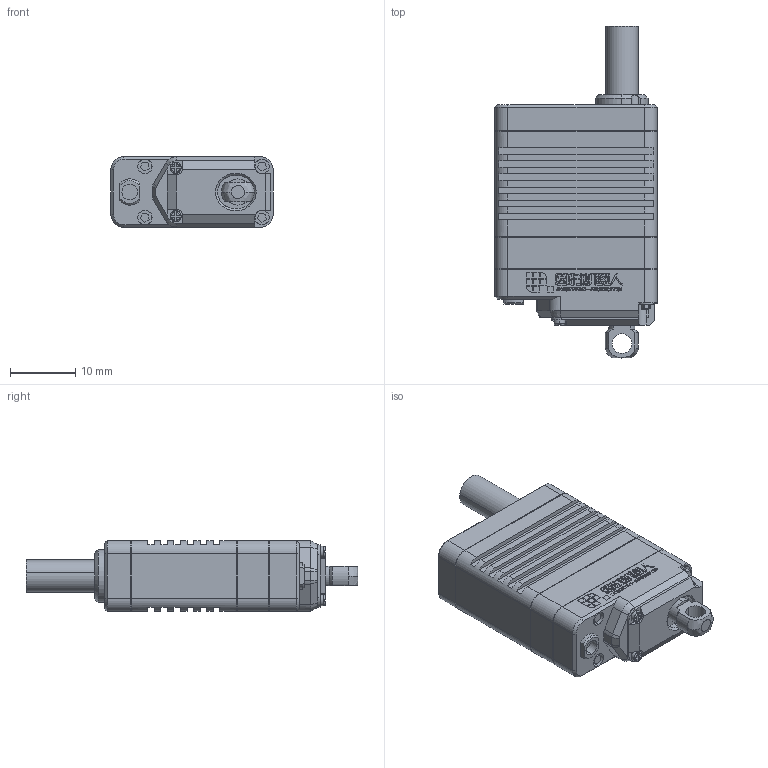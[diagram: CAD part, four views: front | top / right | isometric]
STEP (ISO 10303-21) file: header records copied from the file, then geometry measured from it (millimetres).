
FILE_DESCRIPTION (( 'STEP AP214' ), '1' );
FILE_NAME ('LAS10-0x3D.STEP', '2022-12-28T09:12:09', ( '' ), ( '' ), '', '', '' );
FILE_SCHEMA (( 'AUTOMOTIVE_DESIGN' ));
Length unit declared in the file: millimetre
Products named in the file (4): exA820109-015祥凄詩杶奪_1; Part1^LAS10-0x3D; LAS10-0x3D; ACBO-S30_1
Assembly tree (3 placements, depth 2):
  LAS10-0x3D
    Part1^LAS10-0x3D
    exA820109-015祥凄詩杶奪_1
    ACBO-S30_1
Bounding box: 24.8 x 50.7 x 10.8 mm (x, y, z)
Volume: 8540.9 mm3; surface area: 4038.7 mm2
Topology: 3 solids, 15 shells, 1600 faces, 4219 edges, 2761 vertices
Faces by surface type: plane 923, bspline 450, cylinder 166, cone 61
Entity records: 58937 total; most frequent: CARTESIAN_POINT 15112, ORIENTED_EDGE 8420, DIRECTION 6086, EDGE_CURVE 4210, VERTEX_POINT 2761, LINE 2748, VECTOR 2748, EDGE_LOOP 1743
